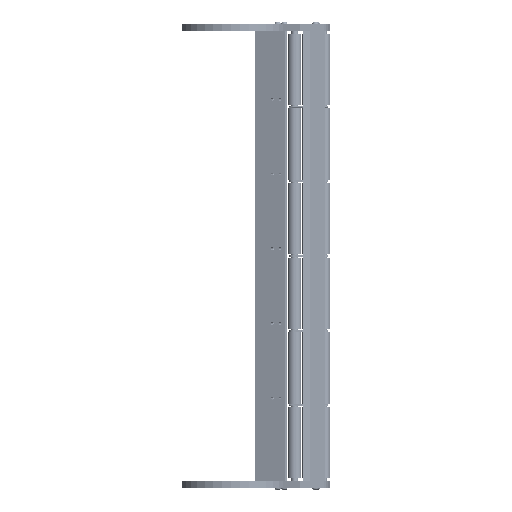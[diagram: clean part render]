
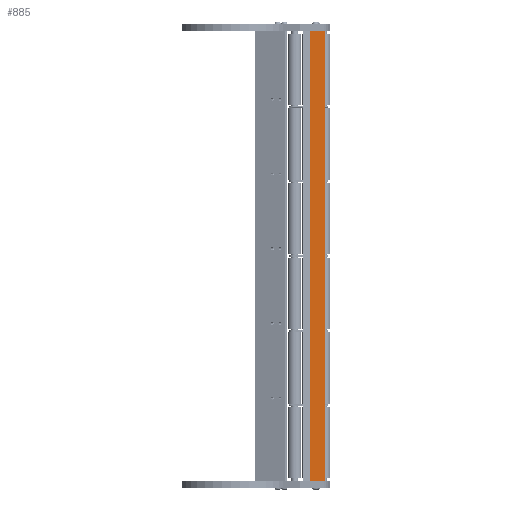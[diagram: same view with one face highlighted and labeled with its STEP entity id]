
A CAD part, front view. The second image highlights one B-rep face of the part: STEP entity #885.
In plain terms, the highlighted planar face has unit normal (0.768, -0.641, 0) as drawn and (0, 1, 0) by its records, which use the part's own axes.
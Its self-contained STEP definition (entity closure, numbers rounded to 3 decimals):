
#885 = ADVANCED_FACE ( 'NONE', ( #15009 ), #4231, .F. ) ;
#1237 = CARTESIAN_POINT ( 'NONE',  ( 0., 13.9, 494. ) ) ;
#1353 = CARTESIAN_POINT ( 'NONE',  ( 25., 13.9, 0. ) ) ;
#1821 = CARTESIAN_POINT ( 'NONE',  ( 25., 13.9, 494. ) ) ;
#2537 = LINE ( 'NONE', #1237, #6563 ) ;
#2817 = LINE ( 'NONE', #13707, #4046 ) ;
#4046 = VECTOR ( 'NONE', #14826, 1000. ) ;
#4231 = PLANE ( 'NONE',  #12322 ) ;
#5464 = DIRECTION ( 'NONE',  ( 0., -1., 0. ) ) ;
#5671 = VECTOR ( 'NONE', #7255, 1000. ) ;
#6356 = EDGE_CURVE ( 'NONE', #11495, #11728, #2537, .T. ) ;
#6563 = VECTOR ( 'NONE', #11042, 1000. ) ;
#6866 = DIRECTION ( 'NONE',  ( 1., 0., 0. ) ) ;
#7255 = DIRECTION ( 'NONE',  ( -1., 0., 0. ) ) ;
#9813 = LINE ( 'NONE', #12784, #5671 ) ;
#10603 = EDGE_LOOP ( 'NONE', ( #14104, #12318, #12216, #15773 ) ) ;
#11042 = DIRECTION ( 'NONE',  ( 0., 0., -1. ) ) ;
#11235 = EDGE_CURVE ( 'NONE', #14208, #11728, #2817, .T. ) ;
#11495 = VERTEX_POINT ( 'NONE', #15141 ) ;
#11728 = VERTEX_POINT ( 'NONE', #12061 ) ;
#12041 = CARTESIAN_POINT ( 'NONE',  ( 25., 13.9, 494. ) ) ;
#12061 = CARTESIAN_POINT ( 'NONE',  ( 0., 13.9, 0. ) ) ;
#12216 = ORIENTED_EDGE ( 'NONE', *, *, #12566, .F. ) ;
#12318 = ORIENTED_EDGE ( 'NONE', *, *, #6356, .F. ) ;
#12322 = AXIS2_PLACEMENT_3D ( 'NONE', #12041, #5464, #6866 ) ;
#12342 = CARTESIAN_POINT ( 'NONE',  ( 25., 13.9, 494. ) ) ;
#12508 = VERTEX_POINT ( 'NONE', #12342 ) ;
#12524 = DIRECTION ( 'NONE',  ( 0., 0., -1. ) ) ;
#12566 = EDGE_CURVE ( 'NONE', #12508, #11495, #9813, .T. ) ;
#12729 = EDGE_CURVE ( 'NONE', #12508, #14208, #15492, .T. ) ;
#12784 = CARTESIAN_POINT ( 'NONE',  ( 25., 13.9, 494. ) ) ;
#13707 = CARTESIAN_POINT ( 'NONE',  ( 25., 13.9, 0. ) ) ;
#14104 = ORIENTED_EDGE ( 'NONE', *, *, #11235, .T. ) ;
#14208 = VERTEX_POINT ( 'NONE', #1353 ) ;
#14826 = DIRECTION ( 'NONE',  ( -1., 0., 0. ) ) ;
#15009 = FACE_OUTER_BOUND ( 'NONE', #10603, .T. ) ;
#15141 = CARTESIAN_POINT ( 'NONE',  ( 0., 13.9, 494. ) ) ;
#15338 = VECTOR ( 'NONE', #12524, 1000. ) ;
#15492 = LINE ( 'NONE', #1821, #15338 ) ;
#15773 = ORIENTED_EDGE ( 'NONE', *, *, #12729, .T. ) ;
